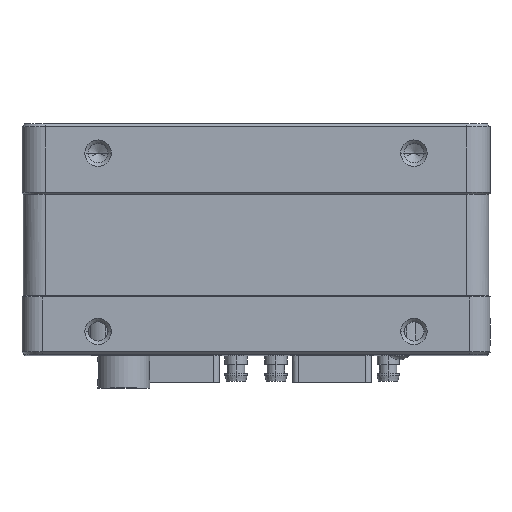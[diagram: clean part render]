
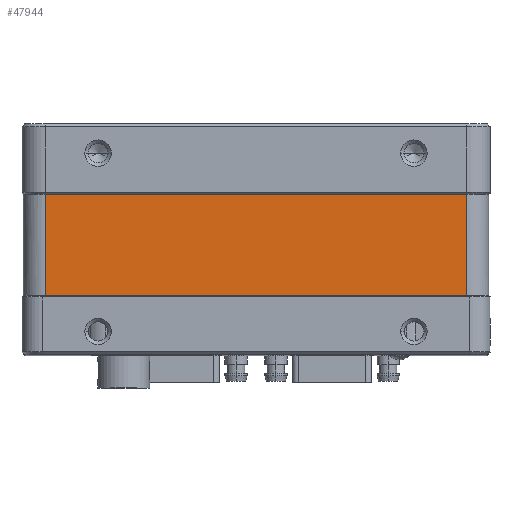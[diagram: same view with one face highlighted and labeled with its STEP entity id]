
A CAD part, top view. The second image highlights one B-rep face of the part: STEP entity #47944.
In plain terms, the highlighted planar face has unit normal (0, 0, 1).
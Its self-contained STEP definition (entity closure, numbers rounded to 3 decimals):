
#5555=DIRECTION('',(1.,0.,0.));
#5556=VECTOR('',#5555,72.);
#5557=CARTESIAN_POINT('',(-36.,-12.,39.8));
#5558=LINE('',#5557,#5556);
#19477=DIRECTION('',(0.,-1.,0.));
#19478=VECTOR('',#19477,17.28);
#19479=CARTESIAN_POINT('',(36.,-12.,39.8));
#19480=LINE('',#19479,#19478);
#19500=DIRECTION('',(1.,0.,0.));
#19501=VECTOR('',#19500,72.);
#19502=CARTESIAN_POINT('',(-36.,-29.28,39.8));
#19503=LINE('',#19502,#19501);
#19507=DIRECTION('',(0.,-1.,0.));
#19508=VECTOR('',#19507,17.28);
#19509=CARTESIAN_POINT('',(-36.,-12.,39.8));
#19510=LINE('',#19509,#19508);
#25711=CARTESIAN_POINT('',(-36.,-12.,39.8));
#25712=VERTEX_POINT('',#25711);
#25713=CARTESIAN_POINT('',(36.,-12.,39.8));
#25714=VERTEX_POINT('',#25713);
#25725=CARTESIAN_POINT('',(-36.,-29.28,39.8));
#25726=CARTESIAN_POINT('',(36.,-29.28,39.8));
#25727=VERTEX_POINT('',#25725);
#25728=VERTEX_POINT('',#25726);
#47932=CARTESIAN_POINT('',(-36.,-12.,39.8));
#47933=DIRECTION('',(0.,0.,1.));
#47934=DIRECTION('',(1.,0.,0.));
#47935=AXIS2_PLACEMENT_3D('',#47932,#47933,#47934);
#47936=PLANE('',#47935);
#47937=ORIENTED_EDGE('',*,*,#31740,.F.);
#47939=ORIENTED_EDGE('',*,*,#47938,.F.);
#47940=ORIENTED_EDGE('',*,*,#31571,.T.);
#47941=ORIENTED_EDGE('',*,*,#47895,.T.);
#47942=EDGE_LOOP('',(#47937,#47939,#47940,#47941));
#47943=FACE_OUTER_BOUND('',#47942,.F.);
#47944=ADVANCED_FACE('',(#47943),#47936,.T.);
#31571=EDGE_CURVE('',#25712,#25714,#5558,.T.);
#31740=EDGE_CURVE('',#25727,#25728,#19503,.T.);
#47895=EDGE_CURVE('',#25714,#25728,#19480,.T.);
#47938=EDGE_CURVE('',#25712,#25727,#19510,.T.);
